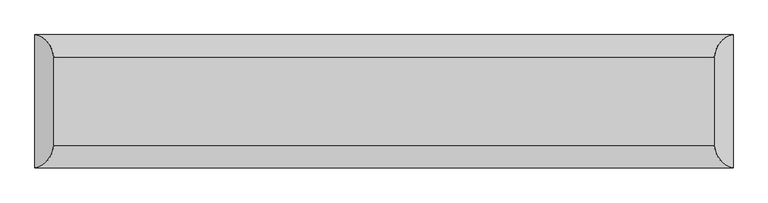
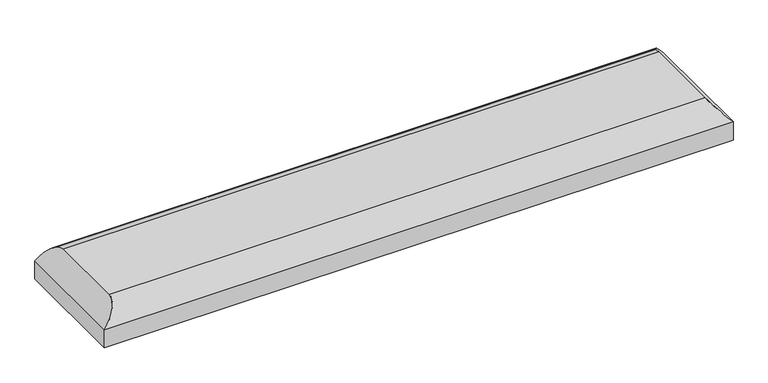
"""IFC4 building model written with IfcOpenShell, lengths in millimetres: light fixture geometry, 双管吸顶式灯具 - T8 : 36 W - 2 盏灯."""

import ifcopenshell
import ifcopenshell.guid

model = None  # the IFC model being written
_history = None  # IfcOwnerHistory: only IFC2X3 demands one
_inside = {}  # id of a spatial element -> (the spatial element, [elements in it])
_under = {}  # id of a project, library or spatial element -> (it, [spatial elements below it])
_declared = {}  # id of a project -> (the project, [libraries it declares])
_typed = {}  # id of a type object -> (the type object, [elements of that type])
_made_of = {}  # id of a material, layer set ... -> (it, [elements and type objects made of it])


def new_model(schema):
    """Start an empty IFC model of exactly this schema.

    Asked for "IFC4X3", IfcOpenShell would pick the latest addendum, in which some entities
    have other attributes; the version numbers below select the first issue.
    IFC2X3 requires an IfcOwnerHistory on every rooted entity: one is made here for all.
    """
    global model, _history
    if schema == "IFC4X3":
        model = ifcopenshell.file(schema_version=(4, 3, 0, 0))
    else:
        model = ifcopenshell.file(schema=schema)
    _inside.clear()
    _under.clear()
    _declared.clear()
    _typed.clear()
    _made_of.clear()
    _history = None
    if model.schema == "IFC2X3":
        org = make("IfcOrganization", Name="unknown")
        user = make(
            "IfcPersonAndOrganization",
            ThePerson=make("IfcPerson", FamilyName="unknown"),
            TheOrganization=org,
        )
        app = make(
            "IfcApplication",
            ApplicationDeveloper=org,
            Version="unknown",
            ApplicationFullName="unknown",
            ApplicationIdentifier="unknown",
        )
        _history = make(
            "IfcOwnerHistory",
            OwningUser=user,
            OwningApplication=app,
            ChangeAction="ADDED",
            CreationDate=0,
        )
    return model


def make(cls, **values):
    """One entity of the class cls with the attributes given. An attribute that is None is left unset."""
    return model.create_entity(
        cls, **{name: value for name, value in values.items() if value is not None}
    )


def rooted(cls, **values):
    """An entity with a GlobalId (a new one), such as an element, a storey or a relation."""
    return make(cls, GlobalId=ifcopenshell.guid.new(), OwnerHistory=_history, **values)


def si_unit(unit_type, name, prefix=None):
    """IfcSIUnit, for example si_unit("LENGTHUNIT", "METRE", prefix="MILLI")."""
    return make("IfcSIUnit", UnitType=unit_type, Prefix=prefix, Name=name)


def assignment(units):
    """IfcUnitAssignment: the units of a project."""
    return None if units is None else make("IfcUnitAssignment", Units=units)


def point(xyz):
    """IfcCartesianPoint."""
    return None if xyz is None else make("IfcCartesianPoint", Coordinates=xyz)


def direction(xyz):
    """IfcDirection."""
    return None if xyz is None else make("IfcDirection", DirectionRatios=xyz)


def frame(location, z_axis=None, x_axis=None):
    """IfcAxis2Placement3D, a coordinate frame: its origin and axes. An axis left out is left unset."""
    return make(
        "IfcAxis2Placement3D",
        Location=point(location),
        Axis=direction(z_axis),
        RefDirection=direction(x_axis),
    )


def origin():
    """The frame at (0, 0, 0) with its axes left unset."""
    return frame((0.0, 0.0, 0.0))


def place(relative_to, where):
    """IfcLocalPlacement: puts the frame where relative to a parent placement (None: the world)."""
    return make(
        "IfcLocalPlacement", PlacementRelTo=relative_to, RelativePlacement=where
    )


def context(
    kind, dimensions, precision=None, world=None, true_north=None, identifier=None
):
    """IfcGeometricRepresentationContext, for example the 3D "Model" context."""
    return make(
        "IfcGeometricRepresentationContext",
        ContextIdentifier=identifier,
        ContextType=kind,
        CoordinateSpaceDimension=dimensions,
        Precision=precision,
        WorldCoordinateSystem=world,
        TrueNorth=true_north,
    )


def project(units=None, contexts=None):
    """IfcProject with its units and contexts."""
    return rooted(
        "IfcProject",
        Name="project",
        RepresentationContexts=contexts,
        UnitsInContext=assignment(units),
    )


def spatial(cls, under=None, at=None, **own):
    """A site, building, storey or space (cls), placed at a placement, below another one or the project."""
    s = rooted(cls, ObjectPlacement=at, **own)
    if under is not None:
        _under.setdefault(under.id(), (under, []))[1].append(s)
    return s


def ellipse_curve(where, semi_axis1, semi_axis2):
    """IfcEllipse in the frame where."""
    return make(
        "IfcEllipse", Position=where, SemiAxis1=semi_axis1, SemiAxis2=semi_axis2
    )


def shape(context_of_items, identifier, shape_type, items):
    """IfcShapeRepresentation: the items that make up one representation, for example the "Body"."""
    return make(
        "IfcShapeRepresentation",
        ContextOfItems=context_of_items,
        RepresentationIdentifier=identifier,
        RepresentationType=shape_type,
        Items=items,
    )


def source(mapping_origin, context_of_items, identifier, shape_type, items):
    """IfcRepresentationMap: a shape defined once, which mapped items show again and again."""
    return make(
        "IfcRepresentationMap",
        MappingOrigin=mapping_origin,
        MappedRepresentation=shape(context_of_items, identifier, shape_type, items),
    )


def transform(
    local_origin,
    x_axis=None,
    y_axis=None,
    z_axis=None,
    scale=None,
    scale2=None,
    scale3=None,
    uniform=True,
):
    """IfcCartesianTransformationOperator3D, or its non-uniform kind. x_axis, y_axis, z_axis: its Axis1, 2, 3."""
    if uniform:
        return make(
            "IfcCartesianTransformationOperator3D",
            Axis1=direction(x_axis),
            Axis2=direction(y_axis),
            LocalOrigin=point(local_origin),
            Scale=scale,
            Axis3=direction(z_axis),
        )
    return make(
        "IfcCartesianTransformationOperator3DnonUniform",
        Axis1=direction(x_axis),
        Axis2=direction(y_axis),
        LocalOrigin=point(local_origin),
        Scale=scale,
        Axis3=direction(z_axis),
        Scale2=scale2,
        Scale3=scale3,
    )


def mapped(mapping_source, mapping_target):
    """IfcMappedItem: shows the shape of a source again, moved by a transform."""
    return make(
        "IfcMappedItem", MappingSource=mapping_source, MappingTarget=mapping_target
    )


def made_of(thing, what):
    """Note that an element or type object is made of a material, layer set ...; save() writes the relation."""
    if what is not None:
        _made_of.setdefault(what.id(), (what, []))[1].append(thing)
    return thing


def element(
    cls,
    number,
    at=None,
    inside=None,
    cuts=None,
    type_object=None,
    material=None,
    context=None,
    identifier="Body",
    shape_type=None,
    held_by="IfcProductDefinitionShape",
    body=None,
    shapes=None,
    **own,
):
    """One element of the class cls, such as IfcWall. Its Tag is "e" and its number.

    at: its placement. inside: the storey or other place that contains it. cuts: it is an
    opening in that element (IfcRelVoidsElement). A single representation is given by context,
    identifier, shape_type and body (its items); several are given by shapes. held_by: the class
    of the entity that holds the representations. save() writes the other relations.
    """
    e = rooted(cls, Tag="e%d" % number, ObjectPlacement=at, **own)
    if body is not None:
        shapes = [shape(context, identifier, shape_type, body)]
    if shapes is not None:
        e.Representation = make(held_by, Representations=shapes)
    if inside is not None:
        _inside.setdefault(inside.id(), (inside, []))[1].append(e)
    if cuts is not None:
        rooted(
            "IfcRelVoidsElement", RelatingBuildingElement=cuts, RelatedOpeningElement=e
        )
    if type_object is not None:
        _typed.setdefault(type_object.id(), (type_object, []))[1].append(e)
    return made_of(e, material)


def aggregate(whole, parts):
    """IfcRelAggregates: a whole, such as a stair, and the parts it consists of."""
    return rooted("IfcRelAggregates", RelatingObject=whole, RelatedObjects=parts)


def save(model, path):
    """Write the relations noted so far, then the file.

    IfcRelAggregates (storeys below a building ...), IfcRelContainedInSpatialStructure (elements
    in a storey), IfcRelDefinesByType, IfcRelAssociatesMaterial and IfcRelDeclares: one each for
    every whole, place, type object, material and project.
    """
    for whole, parts in _under.values():
        aggregate(whole, parts)
    for where, things in _inside.values():
        rooted(
            "IfcRelContainedInSpatialStructure",
            RelatedElements=things,
            RelatingStructure=where,
        )
    for kind, things in _typed.values():
        rooted("IfcRelDefinesByType", RelatedObjects=things, RelatingType=kind)
    for what, things in _made_of.values():
        rooted("IfcRelAssociatesMaterial", RelatedObjects=things, RelatingMaterial=what)
    for by, libraries in _declared.values():
        rooted("IfcRelDeclares", RelatingContext=by, RelatedDefinitions=libraries)
    model.write(path)


def plane_surface(at):
    """IfcPlane: the flat surface through the origin of the frame at, square to its z axis."""
    return make("IfcPlane", Position=at)


def cylinder_surface(at, radius):
    """IfcCylindricalSurface: all points at the distance radius from the z axis of the frame at."""
    return make("IfcCylindricalSurface", Position=at, Radius=radius)


def advanced_brep(points, edges, surfaces, faces):
    """IfcAdvancedBrep: a solid bounded by faces that lie on surfaces and meet in shared edges.

    An edge is (start, end): straight between two places in points (the first is 0);
    or (start, end, curve); or (start, end, curve, False) where it runs against its curve.
    A face is (place in surfaces, loops), or (place, loops, False) where it looks against
    its surface's normal. A loop lists edges by number (the first is 1), with a minus sign
    where the edge is run from its end to its start. The first loop is the outer one.
    """
    corners = [point(p) for p in points]
    vertices = [make("IfcVertexPoint", VertexGeometry=c) for c in corners]
    made = []
    for start, end, *more in edges:
        made.append(
            make(
                "IfcEdgeCurve",
                EdgeStart=vertices[start],
                EdgeEnd=vertices[end],
                EdgeGeometry=more[0] if more else make("IfcPolyline", Points=[corners[start], corners[end]]),
                SameSense=more[1] if len(more) > 1 else True,
            )
        )
    hull = []
    for where, loops, *sense in faces:
        bounds = []
        for j, loop in enumerate(loops):
            ring = [make("IfcOrientedEdge", EdgeElement=made[abs(k) - 1], Orientation=k > 0) for k in loop]
            bounds.append(
                make(
                    "IfcFaceOuterBound" if j == 0 else "IfcFaceBound",
                    Bound=make("IfcEdgeLoop", EdgeList=ring),
                    Orientation=True,
                )
            )
        hull.append(make("IfcAdvancedFace", Bounds=bounds, FaceSurface=surfaces[where], SameSense=sense[0] if sense else True))
    return make("IfcAdvancedBrep", Outer=make("IfcClosedShell", CfsFaces=hull))


def light_fixture_8ba9b709(model_context):
    return source(origin(), model_context, "Body", "AdvancedBrep", [
        advanced_brep(
        [(-655.0, 125.0, 40.0), (-620.0, 83.3333333, 80.0), (620.0, 83.3333333, 80.0), (655.0, 125.0, 40.0), (-620.0, -83.3333333, 80.0), (620.0, -83.3333333, 80.0), (-655.0, -125.0, 40.0), (655.0, -125.0, 40.0), (-655.0, -125.0, 0.0), (655.0, -125.0, 0.0), (655.0, 125.0, 0.0), (-655.0, 125.0, 0.0)],
        [
            (0, 1, ellipse_curve(frame((-660.3392006, 79.1088009, 33.8980565), z_axis=(0.7525766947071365, 0.0, -0.6585046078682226), x_axis=(0.6585046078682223, 0.0, 0.7525766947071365)), 61.515452, 46.2950955)),
            (1, 2),
            (2, 3, ellipse_curve(frame((660.3392006, 79.1088009, 33.8980565), z_axis=(-0.7525766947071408, 0.0, -0.6585046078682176), x_axis=(0.6585046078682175, 0.0, -0.752576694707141)), 61.515452, 46.2950955)),
            (3, 0),
            (1, 4),
            (4, 5),
            (5, 2),
            (4, 6, ellipse_curve(frame((-660.376602, -79.0677661, 33.8553119), z_axis=(0.7525766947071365, 0.0, -0.6585046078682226), x_axis=(0.6585046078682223, 0.0, 0.7525766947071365)), 61.5770078, 46.341421)),
            (6, 7),
            (7, 5, ellipse_curve(frame((660.376602, -79.0677661, 33.8553119), z_axis=(-0.7525766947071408, 0.0, -0.6585046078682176), x_axis=(0.6585046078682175, 0.0, -0.752576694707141)), 61.5770078, 46.341421)),
            (0, 6),
            (7, 3),
            (6, 8),
            (8, 9),
            (9, 7),
            (3, 10),
            (10, 11),
            (11, 0),
            (11, 8),
            (10, 9),
        ],
        [
            cylinder_surface(frame((-655.0, 79.1088009, 33.8980565), z_axis=(1.0, 0.0, 0.0), x_axis=(0.0, 1.0, 0.0)), 46.2950955),
            plane_surface(frame((655.0, 83.3333333, 80.0), z_axis=(0.0, 0.0, 1.0), x_axis=(-1.0, 0.0, 0.0))),
            cylinder_surface(frame((-655.0, -79.0677661, 33.8553119), z_axis=(1.0, 0.0, 0.0), x_axis=(0.0, 1.0, 0.0)), 46.341421),
            plane_surface(frame((-655.0, -125.0, 40.0), z_axis=(-0.7525766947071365, 0.0, 0.6585046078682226), x_axis=(0.0, 1.0, 0.0))),
            plane_surface(frame((620.0, -125.0, 80.0), z_axis=(0.7525766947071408, 0.0, 0.6585046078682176), x_axis=(0.0, 1.0, 0.0))),
            plane_surface(frame((-690.0830394, -125.0, 40.0), z_axis=(0.0, -1.0, 0.0), x_axis=(-1.0, 0.0, 0.0))),
            plane_surface(frame((-690.0830394, 125.0, 40.0), z_axis=(0.0, 1.0, 0.0), x_axis=(1.0, 0.0, 0.0))),
            plane_surface(frame((-655.0, -125.0, 40.0), z_axis=(-1.0, 0.0, 0.0), x_axis=(0.0, 1.0, 0.0))),
            plane_surface(frame((-655.0, -125.0, 0.0), z_axis=(0.0, 0.0, -1.0), x_axis=(0.0, 1.0, 0.0))),
            plane_surface(frame((655.0, -125.0, 0.0), z_axis=(1.0, 0.0, 0.0), x_axis=(0.0, 1.0, 0.0))),
        ],
        [
            (0, [[1, 2, 3, 4]]),
            (1, [[5, 6, 7, -2]]),
            (2, [[8, 9, 10, -6]]),
            (3, [[-1, 11, -8, -5]]),
            (4, [[-3, -7, -10, 12]]),
            (5, [[13, 14, 15, -9]]),
            (6, [[16, 17, 18, -4]]),
            (7, [[-13, -11, -18, 19]]),
            (8, [[-14, -19, -17, 20]]),
            (9, [[-15, -20, -16, -12]]),
        ],
    ),
        advanced_brep(
        [(620.0, 83.3333333, 80.0), (620.0, -83.3333333, 80.0), (631.6666667, -111.7930209, 66.6666667), (631.6666667, 111.8113093, 66.6666667), (-620.0, 83.3333333, 80.0), (-620.0, -83.3333333, 80.0), (-631.6666667, -111.7930209, 66.6666667), (-631.6666667, 111.8113093, 66.6666667)],
        [
            (0, 1),
            (1, 2, ellipse_curve(frame((660.376602, -79.0677661, 33.8553119), z_axis=(0.7525766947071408, 0.0, 0.6585046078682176), x_axis=(0.6585046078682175, 0.0, -0.752576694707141)), 61.5770078, 46.341421)),
            (2, 3),
            (3, 0, ellipse_curve(frame((660.3392006, 79.1088009, 33.8980565), z_axis=(0.7525766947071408, 0.0, 0.6585046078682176), x_axis=(0.6585046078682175, 0.0, -0.752576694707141)), 61.515452, 46.2950955)),
            (0, 4),
            (4, 5),
            (5, 1),
            (5, 6, ellipse_curve(frame((-660.376602, -79.0677661, 33.8553119), z_axis=(0.7525766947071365, 0.0, -0.6585046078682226), x_axis=(0.6585046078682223, 0.0, 0.7525766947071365)), 61.5770078, 46.341421)),
            (6, 2),
            (6, 7),
            (7, 3),
            (7, 4, ellipse_curve(frame((-660.3392006, 79.1088009, 33.8980565), z_axis=(0.7525766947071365, 0.0, -0.6585046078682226), x_axis=(0.6585046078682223, 0.0, 0.7525766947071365)), 61.515452, 46.2950955)),
        ],
        [
            plane_surface(frame((620.0, -125.0, 80.0), z_axis=(0.7525766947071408, 0.0, 0.6585046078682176), x_axis=(0.0, 1.0, 0.0))),
            plane_surface(frame((655.0, 83.3333333, 80.0), z_axis=(0.0, 0.0, 1.0), x_axis=(-1.0, 0.0, 0.0))),
            cylinder_surface(frame((-655.0, -79.0677661, 33.8553119), z_axis=(1.0, 0.0, 0.0), x_axis=(0.0, 1.0, 0.0)), 46.341421),
            plane_surface(frame((655.0, -111.7930209, 66.6666667), z_axis=(0.0, 0.0, -1.0), x_axis=(-1.0, 0.0, 0.0))),
            cylinder_surface(frame((-655.0, 79.1088009, 33.8980565), z_axis=(1.0, 0.0, 0.0), x_axis=(0.0, 1.0, 0.0)), 46.2950955),
            plane_surface(frame((-655.0, -125.0, 40.0), z_axis=(-0.7525766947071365, 0.0, 0.6585046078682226), x_axis=(0.0, 1.0, 0.0))),
        ],
        [
            (0, [[1, 2, 3, 4]]),
            (1, [[-1, 5, 6, 7]]),
            (2, [[-2, -7, 8, 9]]),
            (3, [[-3, -9, 10, 11]]),
            (4, [[-4, -11, 12, -5]]),
            (5, [[-6, -12, -10, -8]]),
        ],
    ),
    ])


if __name__ == "__main__":
    model = new_model("IFC4")
    model_context = context("Model", 3, world=origin())
    ifc_project = project(units=[si_unit("LENGTHUNIT", "METRE", prefix="MILLI")], contexts=[model_context])
    site = spatial("IfcSite", under=ifc_project)
    building = spatial("IfcBuilding", under=site)
    placement = place(None, origin())
    light_fixture_shape = light_fixture_8ba9b709(model_context)
    element("IfcLightFixture", 1, ObjectType="双管吸顶式灯具 - T8 : 36 W - 2 盏灯", at=placement, inside=building, context=model_context, shape_type="MappedRepresentation", body=[
        mapped(light_fixture_shape, transform((0.0, 0.0, 0.0), x_axis=(1.0, 0.0, 0.0), y_axis=(0.0, 1.0, 0.0), z_axis=(0.0, 0.0, 1.0))),
    ])
    save(model, "model.ifc")
